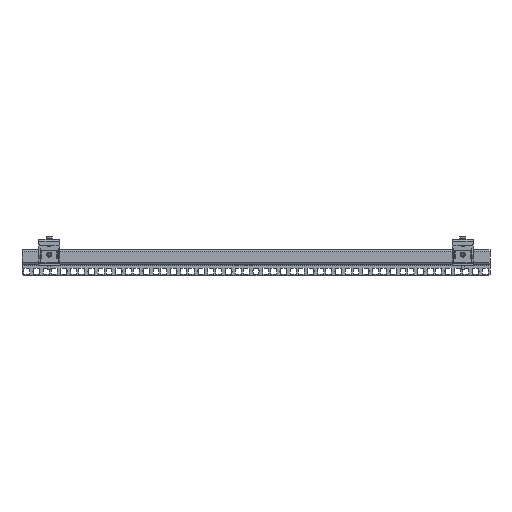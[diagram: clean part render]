
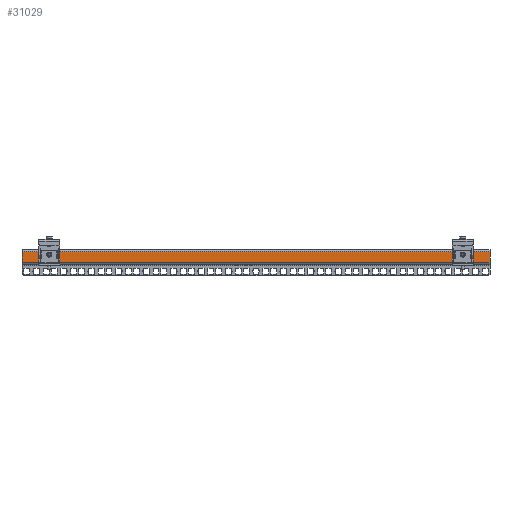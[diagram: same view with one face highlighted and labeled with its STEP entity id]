
A CAD part, left-side view. The second image highlights one B-rep face of the part: STEP entity #31029.
In plain terms, the highlighted planar face has unit normal (-1, 0, 0) as drawn and (1, 0, 0) by its records, which use the part's own axes.
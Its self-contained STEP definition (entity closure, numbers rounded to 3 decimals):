
#48 = EDGE_CURVE ( 'NONE', #16250, #17463, #15343, .T. ) ;
#226 = ORIENTED_EDGE ( 'NONE', *, *, #288, .T. ) ;
#288 = EDGE_CURVE ( 'NONE', #30056, #16250, #14304, .T. ) ;
#524 = DIRECTION ( 'NONE',  ( -1., 0., 0. ) ) ;
#1287 = ORIENTED_EDGE ( 'NONE', *, *, #15689, .F. ) ;
#2773 = DIRECTION ( 'NONE',  ( 0., 0., 1. ) ) ;
#2876 = VERTEX_POINT ( 'NONE', #12560 ) ;
#10214 = ORIENTED_EDGE ( 'NONE', *, *, #48, .T. ) ;
#10389 = CARTESIAN_POINT ( 'NONE',  ( 46.5, 758., -3.2 ) ) ;
#11283 = CARTESIAN_POINT ( 'NONE',  ( 46.5, 758., -20.8 ) ) ;
#12560 = CARTESIAN_POINT ( 'NONE',  ( 46.5, 0., -3.2 ) ) ;
#12709 = CARTESIAN_POINT ( 'NONE',  ( 46.5, 758., -1.2 ) ) ;
#12932 = DIRECTION ( 'NONE',  ( 0., 0., 1. ) ) ;
#13082 = CARTESIAN_POINT ( 'NONE',  ( 46.5, 758., -1.2 ) ) ;
#13137 = AXIS2_PLACEMENT_3D ( 'NONE', #12709, #524, #2773 ) ;
#13348 = VECTOR ( 'NONE', #19396, 1000. ) ;
#14304 = LINE ( 'NONE', #26899, #25442 ) ;
#15287 = CARTESIAN_POINT ( 'NONE',  ( 46.5, 0., -20.8 ) ) ;
#15343 = LINE ( 'NONE', #13082, #21244 ) ;
#15689 = EDGE_CURVE ( 'NONE', #2876, #17463, #22647, .T. ) ;
#16250 = VERTEX_POINT ( 'NONE', #11283 ) ;
#17121 = LINE ( 'NONE', #26969, #13348 ) ;
#17463 = VERTEX_POINT ( 'NONE', #23471 ) ;
#17545 = VECTOR ( 'NONE', #18904, 1000. ) ;
#18904 = DIRECTION ( 'NONE',  ( 0., 1., 0. ) ) ;
#19396 = DIRECTION ( 'NONE',  ( 0., 0., -1. ) ) ;
#21244 = VECTOR ( 'NONE', #12932, 1000. ) ;
#22404 = PLANE ( 'NONE',  #13137 ) ;
#22647 = LINE ( 'NONE', #10389, #17545 ) ;
#23471 = CARTESIAN_POINT ( 'NONE',  ( 46.5, 758., -3.2 ) ) ;
#23540 = EDGE_LOOP ( 'NONE', ( #226, #10214, #1287, #26149 ) ) ;
#23845 = DIRECTION ( 'NONE',  ( 0., 1., 0. ) ) ;
#23888 = EDGE_CURVE ( 'NONE', #2876, #30056, #17121, .T. ) ;
#25304 = FACE_OUTER_BOUND ( 'NONE', #23540, .T. ) ;
#25442 = VECTOR ( 'NONE', #23845, 1000. ) ;
#26149 = ORIENTED_EDGE ( 'NONE', *, *, #23888, .T. ) ;
#26899 = CARTESIAN_POINT ( 'NONE',  ( 46.5, 0., -20.8 ) ) ;
#26969 = CARTESIAN_POINT ( 'NONE',  ( 46.5, 0., -1.2 ) ) ;
#30056 = VERTEX_POINT ( 'NONE', #15287 ) ;
#31029 = ADVANCED_FACE ( 'NONE', ( #25304 ), #22404, .F. ) ;
